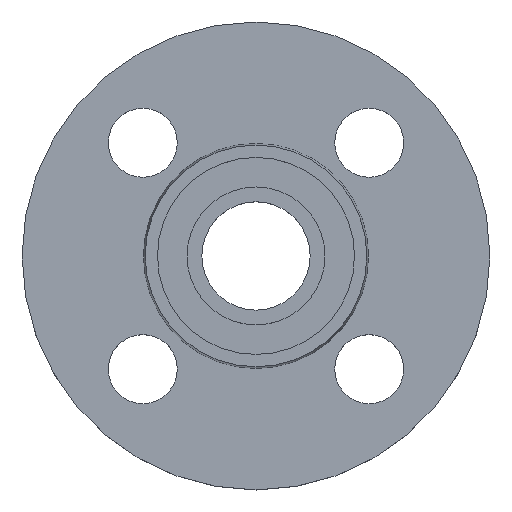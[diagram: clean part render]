
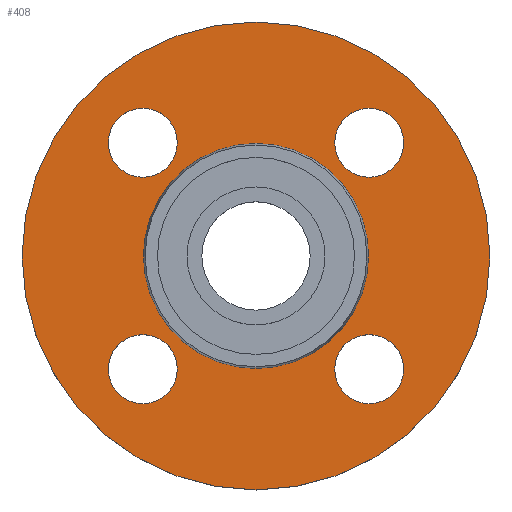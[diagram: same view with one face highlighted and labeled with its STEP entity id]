
A CAD part, top view. The second image highlights one B-rep face of the part: STEP entity #408.
In plain terms, the highlighted planar face has unit normal (0, 0, 1).
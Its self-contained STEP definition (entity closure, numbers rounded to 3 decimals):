
#7 = CIRCLE ( 'NONE', #253, 47.5 ) ;
#13 = CARTESIAN_POINT ( 'NONE',  ( 15.981, 22.981, -2. ) ) ;
#14 = AXIS2_PLACEMENT_3D ( 'NONE', #633, #256, #47 ) ;
#20 = AXIS2_PLACEMENT_3D ( 'NONE', #194, #214, #379 ) ;
#39 = CIRCLE ( 'NONE', #151, 47.5 ) ;
#47 = DIRECTION ( 'NONE',  ( -1., 0., 0. ) ) ;
#48 = CARTESIAN_POINT ( 'NONE',  ( 22.981, 22.981, -2. ) ) ;
#86 = CARTESIAN_POINT ( 'NONE',  ( 22.853, 0., -2. ) ) ;
#116 = CARTESIAN_POINT ( 'NONE',  ( 15.981, -22.981, -2. ) ) ;
#127 = FACE_BOUND ( 'NONE', #587, .T. ) ;
#132 = FACE_BOUND ( 'NONE', #460, .T. ) ;
#133 = PLANE ( 'NONE',  #20 ) ;
#134 = FACE_BOUND ( 'NONE', #566, .T. ) ;
#136 = FACE_BOUND ( 'NONE', #575, .T. ) ;
#139 = DIRECTION ( 'NONE',  ( 1., 0., 0. ) ) ;
#142 = AXIS2_PLACEMENT_3D ( 'NONE', #347, #348, #350 ) ;
#143 = FACE_BOUND ( 'NONE', #392, .T. ) ;
#147 = AXIS2_PLACEMENT_3D ( 'NONE', #274, #275, #276 ) ;
#151 = AXIS2_PLACEMENT_3D ( 'NONE', #699, #700, #701 ) ;
#152 = AXIS2_PLACEMENT_3D ( 'NONE', #695, #696, #697 ) ;
#155 = VERTEX_POINT ( 'NONE', #686 ) ;
#159 = FACE_OUTER_BOUND ( 'NONE', #384, .T. ) ;
#163 = EDGE_CURVE ( 'NONE', #463, #573, #415, .T. ) ;
#172 = EDGE_CURVE ( 'NONE', #554, #380, #39, .T. ) ;
#177 = CARTESIAN_POINT ( 'NONE',  ( 29.981, 22.981, -2. ) ) ;
#183 = CARTESIAN_POINT ( 'NONE',  ( 29.981, -22.981, -2. ) ) ;
#184 = DIRECTION ( 'NONE',  ( 0., 0., -1. ) ) ;
#187 = CIRCLE ( 'NONE', #14, 22.853 ) ;
#191 = AXIS2_PLACEMENT_3D ( 'NONE', #722, #723, #724 ) ;
#192 = CIRCLE ( 'NONE', #147, 7. ) ;
#194 = CARTESIAN_POINT ( 'NONE',  ( 22.853, 0., -2. ) ) ;
#199 = EDGE_CURVE ( 'NONE', #580, #572, #215, .T. ) ;
#205 = CARTESIAN_POINT ( 'NONE',  ( 0., 0., -2. ) ) ;
#206 = EDGE_CURVE ( 'NONE', #577, #504, #212, .T. ) ;
#210 = AXIS2_PLACEMENT_3D ( 'NONE', #710, #711, #712 ) ;
#212 = CIRCLE ( 'NONE', #216, 22.853 ) ;
#213 = EDGE_CURVE ( 'NONE', #414, #551, #220, .T. ) ;
#214 = DIRECTION ( 'NONE',  ( 0., 0., 1. ) ) ;
#215 = CIRCLE ( 'NONE', #210, 7. ) ;
#216 = AXIS2_PLACEMENT_3D ( 'NONE', #713, #714, #715 ) ;
#220 = CIRCLE ( 'NONE', #191, 7. ) ;
#230 = DIRECTION ( 'NONE',  ( 0., 0., -1. ) ) ;
#231 = CIRCLE ( 'NONE', #233, 7. ) ;
#233 = AXIS2_PLACEMENT_3D ( 'NONE', #738, #739, #740 ) ;
#253 = AXIS2_PLACEMENT_3D ( 'NONE', #205, #184, #388 ) ;
#256 = DIRECTION ( 'NONE',  ( 0., 0., -1. ) ) ;
#262 = AXIS2_PLACEMENT_3D ( 'NONE', #48, #230, #747 ) ;
#266 = EDGE_CURVE ( 'NONE', #155, #419, #231, .T. ) ;
#274 = CARTESIAN_POINT ( 'NONE',  ( -22.981, -22.981, -2. ) ) ;
#275 = DIRECTION ( 'NONE',  ( 0., 0., -1. ) ) ;
#276 = DIRECTION ( 'NONE',  ( 1., 0., 0. ) ) ;
#291 = EDGE_CURVE ( 'NONE', #380, #554, #7, .T. ) ;
#321 = CARTESIAN_POINT ( 'NONE',  ( 47.5, 0., -2. ) ) ;
#334 = CARTESIAN_POINT ( 'NONE',  ( -29.981, 22.981, -2. ) ) ;
#335 = CARTESIAN_POINT ( 'NONE',  ( -29.981, -22.981, -2. ) ) ;
#336 = CARTESIAN_POINT ( 'NONE',  ( -22.853, 0., -2. ) ) ;
#341 = DIRECTION ( 'NONE',  ( 0., 0., -1. ) ) ;
#342 = CARTESIAN_POINT ( 'NONE',  ( -22.981, 22.981, -2. ) ) ;
#347 = CARTESIAN_POINT ( 'NONE',  ( 22.981, -22.981, -2. ) ) ;
#348 = DIRECTION ( 'NONE',  ( 0., 0., -1. ) ) ;
#350 = DIRECTION ( 'NONE',  ( 1., 0., 0. ) ) ;
#357 = CIRCLE ( 'NONE', #262, 7. ) ;
#358 = EDGE_CURVE ( 'NONE', #419, #155, #192, .T. ) ;
#376 = CARTESIAN_POINT ( 'NONE',  ( -47.5, 0., -2. ) ) ;
#379 = DIRECTION ( 'NONE',  ( 1., 0., 0. ) ) ;
#380 = VERTEX_POINT ( 'NONE', #321 ) ;
#383 = CARTESIAN_POINT ( 'NONE',  ( -15.981, 22.981, -2. ) ) ;
#384 = EDGE_LOOP ( 'NONE', ( #492, #493 ) ) ;
#385 = CIRCLE ( 'NONE', #142, 7. ) ;
#387 = AXIS2_PLACEMENT_3D ( 'NONE', #342, #341, #139 ) ;
#388 = DIRECTION ( 'NONE',  ( -1., 0., 0. ) ) ;
#392 = EDGE_LOOP ( 'NONE', ( #488, #489 ) ) ;
#407 = EDGE_CURVE ( 'NONE', #551, #414, #477, .T. ) ;
#408 = ADVANCED_FACE ( 'NONE', ( #134, #132, #127, #143, #136, #159 ), #133, .T. ) ;
#414 = VERTEX_POINT ( 'NONE', #383 ) ;
#415 = CIRCLE ( 'NONE', #152, 7. ) ;
#419 = VERTEX_POINT ( 'NONE', #335 ) ;
#460 = EDGE_LOOP ( 'NONE', ( #482, #485 ) ) ;
#463 = VERTEX_POINT ( 'NONE', #177 ) ;
#477 = CIRCLE ( 'NONE', #387, 7. ) ;
#480 = ORIENTED_EDGE ( 'NONE', *, *, #199, .T. ) ;
#481 = ORIENTED_EDGE ( 'NONE', *, *, #525, .T. ) ;
#482 = ORIENTED_EDGE ( 'NONE', *, *, #266, .T. ) ;
#485 = ORIENTED_EDGE ( 'NONE', *, *, #358, .T. ) ;
#486 = ORIENTED_EDGE ( 'NONE', *, *, #213, .T. ) ;
#487 = ORIENTED_EDGE ( 'NONE', *, *, #407, .T. ) ;
#488 = ORIENTED_EDGE ( 'NONE', *, *, #163, .T. ) ;
#489 = ORIENTED_EDGE ( 'NONE', *, *, #537, .T. ) ;
#490 = ORIENTED_EDGE ( 'NONE', *, *, #543, .T. ) ;
#491 = ORIENTED_EDGE ( 'NONE', *, *, #206, .T. ) ;
#492 = ORIENTED_EDGE ( 'NONE', *, *, #291, .F. ) ;
#493 = ORIENTED_EDGE ( 'NONE', *, *, #172, .F. ) ;
#504 = VERTEX_POINT ( 'NONE', #336 ) ;
#525 = EDGE_CURVE ( 'NONE', #572, #580, #385, .T. ) ;
#537 = EDGE_CURVE ( 'NONE', #573, #463, #357, .T. ) ;
#543 = EDGE_CURVE ( 'NONE', #504, #577, #187, .T. ) ;
#551 = VERTEX_POINT ( 'NONE', #334 ) ;
#554 = VERTEX_POINT ( 'NONE', #376 ) ;
#566 = EDGE_LOOP ( 'NONE', ( #480, #481 ) ) ;
#572 = VERTEX_POINT ( 'NONE', #116 ) ;
#573 = VERTEX_POINT ( 'NONE', #13 ) ;
#575 = EDGE_LOOP ( 'NONE', ( #490, #491 ) ) ;
#577 = VERTEX_POINT ( 'NONE', #86 ) ;
#580 = VERTEX_POINT ( 'NONE', #183 ) ;
#587 = EDGE_LOOP ( 'NONE', ( #486, #487 ) ) ;
#633 = CARTESIAN_POINT ( 'NONE',  ( 0., 0., -2. ) ) ;
#686 = CARTESIAN_POINT ( 'NONE',  ( -15.981, -22.981, -2. ) ) ;
#695 = CARTESIAN_POINT ( 'NONE',  ( 22.981, 22.981, -2. ) ) ;
#696 = DIRECTION ( 'NONE',  ( 0., 0., -1. ) ) ;
#697 = DIRECTION ( 'NONE',  ( 1., 0., 0. ) ) ;
#699 = CARTESIAN_POINT ( 'NONE',  ( 0., 0., -2. ) ) ;
#700 = DIRECTION ( 'NONE',  ( 0., 0., -1. ) ) ;
#701 = DIRECTION ( 'NONE',  ( -1., 0., 0. ) ) ;
#710 = CARTESIAN_POINT ( 'NONE',  ( 22.981, -22.981, -2. ) ) ;
#711 = DIRECTION ( 'NONE',  ( 0., 0., -1. ) ) ;
#712 = DIRECTION ( 'NONE',  ( 1., 0., 0. ) ) ;
#713 = CARTESIAN_POINT ( 'NONE',  ( 0., 0., -2. ) ) ;
#714 = DIRECTION ( 'NONE',  ( 0., 0., -1. ) ) ;
#715 = DIRECTION ( 'NONE',  ( -1., 0., 0. ) ) ;
#722 = CARTESIAN_POINT ( 'NONE',  ( -22.981, 22.981, -2. ) ) ;
#723 = DIRECTION ( 'NONE',  ( 0., 0., -1. ) ) ;
#724 = DIRECTION ( 'NONE',  ( 1., 0., 0. ) ) ;
#738 = CARTESIAN_POINT ( 'NONE',  ( -22.981, -22.981, -2. ) ) ;
#739 = DIRECTION ( 'NONE',  ( 0., 0., -1. ) ) ;
#740 = DIRECTION ( 'NONE',  ( 1., 0., 0. ) ) ;
#747 = DIRECTION ( 'NONE',  ( 1., 0., 0. ) ) ;
